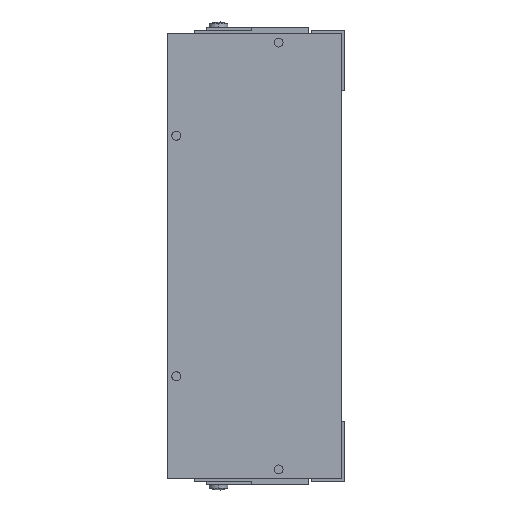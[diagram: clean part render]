
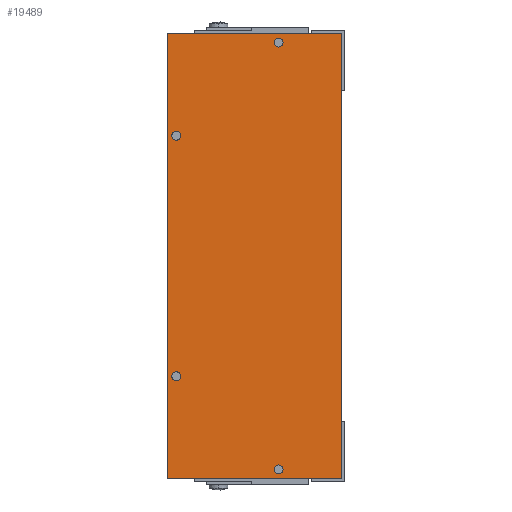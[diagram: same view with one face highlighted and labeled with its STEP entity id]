
A CAD part, left-side view. The second image highlights one B-rep face of the part: STEP entity #19489.
In plain terms, the highlighted planar face has unit normal (-1, 0, 0).
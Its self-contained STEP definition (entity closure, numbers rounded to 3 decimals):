
#3331 = DIRECTION ( 'NONE',  ( 0., 0., -1. ) ) ;
#3332 = DIRECTION ( 'NONE',  ( 1., 0., 0. ) ) ;
#3333 = CARTESIAN_POINT ( 'NONE',  ( -191., 56., 40. ) ) ;
#3334 = AXIS2_PLACEMENT_3D ( 'NONE', #3333, #3332, #3331 ) ;
#3335 = CIRCLE ( 'NONE', #3334, 1.5 ) ;
#3336 = CARTESIAN_POINT ( 'NONE',  ( -191., 22., 71. ) ) ;
#3337 = DIRECTION ( 'NONE',  ( 0., 0., 1. ) ) ;
#3338 = DIRECTION ( 'NONE',  ( -1., 0., 0. ) ) ;
#3339 = CARTESIAN_POINT ( 'NONE',  ( -191., 59., 74. ) ) ;
#3340 = AXIS2_PLACEMENT_3D ( 'NONE', #3339, #3338, #3337 ) ;
#3341 = PLANE ( 'NONE',  #3340 ) ;
#3342 = FACE_OUTER_BOUND ( 'NONE', #19453, .T. ) ;
#3343 = FACE_BOUND ( 'NONE', #19449, .T. ) ;
#3344 = FACE_BOUND ( 'NONE', #19389, .T. ) ;
#3345 = FACE_BOUND ( 'NONE', #19494, .T. ) ;
#3346 = FACE_BOUND ( 'NONE', #19490, .T. ) ;
#3372 = CARTESIAN_POINT ( 'NONE',  ( -191., 59., -74. ) ) ;
#3373 = DIRECTION ( 'NONE',  ( 0., 0., 1. ) ) ;
#3374 = VECTOR ( 'NONE', #3373, 1000. ) ;
#3375 = CARTESIAN_POINT ( 'NONE',  ( -191., 59., 74. ) ) ;
#3376 = LINE ( 'NONE', #3375, #3374 ) ;
#3377 = CARTESIAN_POINT ( 'NONE',  ( -191., 1., 74. ) ) ;
#3378 = CARTESIAN_POINT ( 'NONE',  ( -191., 59., 74. ) ) ;
#3379 = DIRECTION ( 'NONE',  ( 0., -1., 0. ) ) ;
#3380 = VECTOR ( 'NONE', #3379, 1000. ) ;
#3381 = CARTESIAN_POINT ( 'NONE',  ( -191., 1., 74. ) ) ;
#3382 = LINE ( 'NONE', #3381, #3380 ) ;
#3383 = DIRECTION ( 'NONE',  ( 0., 0., -1. ) ) ;
#3384 = DIRECTION ( 'NONE',  ( 1., 0., 0. ) ) ;
#3385 = AXIS2_PLACEMENT_3D ( 'NONE', #3538, #3384, #3383 ) ;
#3386 = CIRCLE ( 'NONE', #3385, 1.5 ) ;
#3408 = DIRECTION ( 'NONE',  ( 0., 0., -1. ) ) ;
#3409 = VECTOR ( 'NONE', #3408, 1000. ) ;
#3410 = CARTESIAN_POINT ( 'NONE',  ( -191., 1., 74. ) ) ;
#3411 = LINE ( 'NONE', #3410, #3409 ) ;
#3412 = CARTESIAN_POINT ( 'NONE',  ( -191., 1., -74. ) ) ;
#3413 = DIRECTION ( 'NONE',  ( 0., 1., 0. ) ) ;
#3414 = VECTOR ( 'NONE', #3413, 1000. ) ;
#3415 = CARTESIAN_POINT ( 'NONE',  ( -191., 1., -74. ) ) ;
#3416 = LINE ( 'NONE', #3415, #3414 ) ;
#3470 = DIRECTION ( 'NONE',  ( 0., 0., -1. ) ) ;
#3471 = DIRECTION ( 'NONE',  ( 1., 0., 0. ) ) ;
#3472 = AXIS2_PLACEMENT_3D ( 'NONE', #3336, #3471, #3470 ) ;
#3473 = CIRCLE ( 'NONE', #3472, 1.5 ) ;
#3538 = CARTESIAN_POINT ( 'NONE',  ( -191., 56., -40. ) ) ;
#3539 = DIRECTION ( 'NONE',  ( 0., 0., -1. ) ) ;
#3540 = DIRECTION ( 'NONE',  ( 1., 0., 0. ) ) ;
#3541 = CARTESIAN_POINT ( 'NONE',  ( -191., 22., -71. ) ) ;
#3542 = AXIS2_PLACEMENT_3D ( 'NONE', #3541, #3540, #3539 ) ;
#3543 = CIRCLE ( 'NONE', #3542, 1.5 ) ;
#11469 = AXIS2_PLACEMENT_3D ( 'NONE', #11543, #11542, #11541 ) ;
#11470 = CIRCLE ( 'NONE', #11469, 1.5 ) ;
#11534 = CARTESIAN_POINT ( 'NONE',  ( -191., 56., 38.5 ) ) ;
#11540 = CARTESIAN_POINT ( 'NONE',  ( -191., 56., 41.5 ) ) ;
#11541 = DIRECTION ( 'NONE',  ( 0., 0., -1. ) ) ;
#11542 = DIRECTION ( 'NONE',  ( 1., 0., 0. ) ) ;
#11543 = CARTESIAN_POINT ( 'NONE',  ( -191., 56., 40. ) ) ;
#11651 = CARTESIAN_POINT ( 'NONE',  ( -191., 22., -72.5 ) ) ;
#11656 = CARTESIAN_POINT ( 'NONE',  ( -191., 22., 69.5 ) ) ;
#11657 = CARTESIAN_POINT ( 'NONE',  ( -191., 22., 72.5 ) ) ;
#11771 = CARTESIAN_POINT ( 'NONE',  ( -191., 56., -40. ) ) ;
#11772 = AXIS2_PLACEMENT_3D ( 'NONE', #11771, #11858, #11857 ) ;
#11773 = CIRCLE ( 'NONE', #11772, 1.5 ) ;
#11856 = CARTESIAN_POINT ( 'NONE',  ( -191., 56., -41.5 ) ) ;
#11857 = DIRECTION ( 'NONE',  ( 0., 0., -1. ) ) ;
#11858 = DIRECTION ( 'NONE',  ( 1., 0., 0. ) ) ;
#11901 = CARTESIAN_POINT ( 'NONE',  ( -191., 22., -69.5 ) ) ;
#11904 = DIRECTION ( 'NONE',  ( 0., 0., -1. ) ) ;
#11905 = DIRECTION ( 'NONE',  ( 1., 0., 0. ) ) ;
#11906 = AXIS2_PLACEMENT_3D ( 'NONE', #11912, #11905, #11904 ) ;
#11907 = CIRCLE ( 'NONE', #11906, 1.5 ) ;
#11912 = CARTESIAN_POINT ( 'NONE',  ( -191., 22., 71. ) ) ;
#11921 = DIRECTION ( 'NONE',  ( 0., 0., -1. ) ) ;
#11922 = DIRECTION ( 'NONE',  ( 1., 0., 0. ) ) ;
#11923 = CARTESIAN_POINT ( 'NONE',  ( -191., 22., -71. ) ) ;
#11924 = AXIS2_PLACEMENT_3D ( 'NONE', #11923, #11922, #11921 ) ;
#11925 = CIRCLE ( 'NONE', #11924, 1.5 ) ;
#11949 = CARTESIAN_POINT ( 'NONE',  ( -191., 56., -38.5 ) ) ;
#15404 = EDGE_CURVE ( 'NONE', #15405, #15437, #11470, .T. ) ;
#15405 = VERTEX_POINT ( 'NONE', #11540 ) ;
#15437 = VERTEX_POINT ( 'NONE', #11534 ) ;
#15537 = VERTEX_POINT ( 'NONE', #11657 ) ;
#15538 = VERTEX_POINT ( 'NONE', #11656 ) ;
#15541 = VERTEX_POINT ( 'NONE', #11651 ) ;
#15565 = EDGE_CURVE ( 'NONE', #15572, #15541, #11925, .T. ) ;
#15569 = EDGE_CURVE ( 'NONE', #15537, #15538, #11907, .T. ) ;
#15572 = VERTEX_POINT ( 'NONE', #11901 ) ;
#15653 = VERTEX_POINT ( 'NONE', #11949 ) ;
#15682 = EDGE_CURVE ( 'NONE', #15653, #15683, #11773, .T. ) ;
#15683 = VERTEX_POINT ( 'NONE', #11856 ) ;
#19388 = ORIENTED_EDGE ( 'NONE', *, *, #15569, .T. ) ;
#19389 = EDGE_LOOP ( 'NONE', ( #19446, #19448 ) ) ;
#19446 = ORIENTED_EDGE ( 'NONE', *, *, #19447, .T. ) ;
#19447 = EDGE_CURVE ( 'NONE', #15541, #15572, #3543, .T. ) ;
#19448 = ORIENTED_EDGE ( 'NONE', *, *, #15565, .T. ) ;
#19449 = EDGE_LOOP ( 'NONE', ( #19450, #19452 ) ) ;
#19450 = ORIENTED_EDGE ( 'NONE', *, *, #19451, .T. ) ;
#19451 = EDGE_CURVE ( 'NONE', #15683, #15653, #3386, .T. ) ;
#19452 = ORIENTED_EDGE ( 'NONE', *, *, #15682, .T. ) ;
#19453 = EDGE_LOOP ( 'NONE', ( #19454, #19458, #19461, #19464 ) ) ;
#19454 = ORIENTED_EDGE ( 'NONE', *, *, #19455, .F. ) ;
#19455 = EDGE_CURVE ( 'NONE', #19456, #19457, #3382, .T. ) ;
#19456 = VERTEX_POINT ( 'NONE', #3378 ) ;
#19457 = VERTEX_POINT ( 'NONE', #3377 ) ;
#19458 = ORIENTED_EDGE ( 'NONE', *, *, #19459, .F. ) ;
#19459 = EDGE_CURVE ( 'NONE', #19460, #19456, #3376, .T. ) ;
#19460 = VERTEX_POINT ( 'NONE', #3372 ) ;
#19461 = ORIENTED_EDGE ( 'NONE', *, *, #19462, .F. ) ;
#19462 = EDGE_CURVE ( 'NONE', #19463, #19460, #3416, .T. ) ;
#19463 = VERTEX_POINT ( 'NONE', #3412 ) ;
#19464 = ORIENTED_EDGE ( 'NONE', *, *, #19465, .F. ) ;
#19465 = EDGE_CURVE ( 'NONE', #19457, #19463, #3411, .T. ) ;
#19489 = ADVANCED_FACE ( 'NONE', ( #3346, #3345, #3344, #3343, #3342 ), #3341, .T. ) ;
#19490 = EDGE_LOOP ( 'NONE', ( #19491, #19493 ) ) ;
#19491 = ORIENTED_EDGE ( 'NONE', *, *, #19492, .T. ) ;
#19492 = EDGE_CURVE ( 'NONE', #15437, #15405, #3335, .T. ) ;
#19493 = ORIENTED_EDGE ( 'NONE', *, *, #15404, .T. ) ;
#19494 = EDGE_LOOP ( 'NONE', ( #19495, #19388 ) ) ;
#19495 = ORIENTED_EDGE ( 'NONE', *, *, #19496, .T. ) ;
#19496 = EDGE_CURVE ( 'NONE', #15538, #15537, #3473, .T. ) ;
